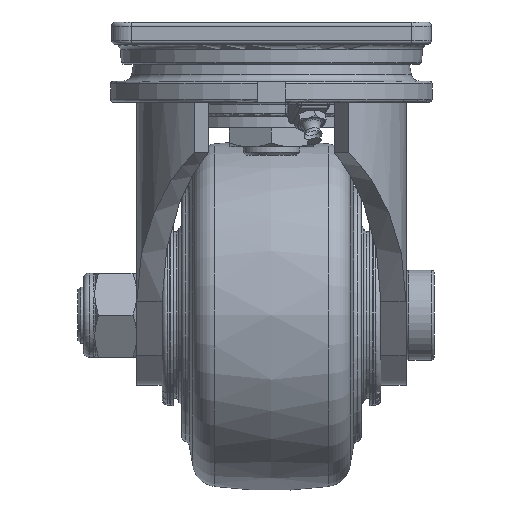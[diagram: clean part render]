
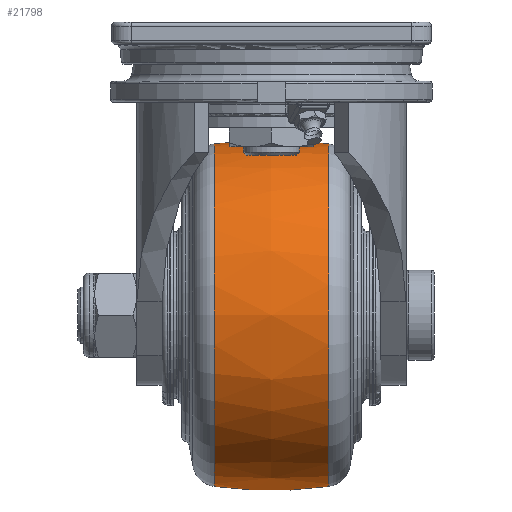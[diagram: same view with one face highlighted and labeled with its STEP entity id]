
A CAD part, left-side view. The second image highlights one B-rep face of the part: STEP entity #21798.
In plain terms, the highlighted free-form (B-spline) face has degree [2, 2] with [3, 9] control points.
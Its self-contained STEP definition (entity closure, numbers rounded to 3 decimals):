
#88=(
BOUNDED_SURFACE()
B_SPLINE_SURFACE(2,2,((#30677,#30678,#30679,#30680,#30681,#30682,#30683,
#30684,#30685),(#30686,#30687,#30688,#30689,#30690,#30691,#30692,#30693,
#30694),(#30695,#30696,#30697,#30698,#30699,#30700,#30701,#30702,#30703)),
 .UNSPECIFIED.,.F.,.T.,.F.)
B_SPLINE_SURFACE_WITH_KNOTS((3,3),(3,2,2,2,3),(-0.136,0.136),
(-3.142,-1.571,0.,1.571,3.142),
 .UNSPECIFIED.)
GEOMETRIC_REPRESENTATION_ITEM()
RATIONAL_B_SPLINE_SURFACE(((1.,0.707,1.,0.707,1.,
0.707,1.,0.707,1.),(0.991,0.701,
0.991,0.701,0.991,0.701,
0.991,0.701,0.991),(1.,0.707,
1.,0.707,1.,0.707,1.,0.707,1.)))
REPRESENTATION_ITEM('')
SURFACE()
);
#5610=FACE_OUTER_BOUND('',#6894,.T.);
#6894=EDGE_LOOP('',(#15235,#15236,#15237,#15238,#15239,#15240));
#8359=CIRCLE('',#23279,61.106);
#8360=CIRCLE('',#23280,61.106);
#8361=CIRCLE('',#23281,150.);
#8362=CIRCLE('',#23282,61.106);
#8363=CIRCLE('',#23283,61.106);
#9273=VERTEX_POINT('',#30672);
#9274=VERTEX_POINT('',#30674);
#9275=VERTEX_POINT('',#30704);
#9276=VERTEX_POINT('',#30706);
#11573=EDGE_CURVE('',#9273,#9274,#8359,.T.);
#11574=EDGE_CURVE('',#9274,#9273,#8360,.T.);
#11575=EDGE_CURVE('',#9273,#9275,#8361,.T.);
#11576=EDGE_CURVE('',#9275,#9276,#8362,.T.);
#11577=EDGE_CURVE('',#9276,#9275,#8363,.T.);
#15235=ORIENTED_EDGE('',*,*,#11574,.F.);
#15236=ORIENTED_EDGE('',*,*,#11573,.F.);
#15237=ORIENTED_EDGE('',*,*,#11575,.T.);
#15238=ORIENTED_EDGE('',*,*,#11576,.T.);
#15239=ORIENTED_EDGE('',*,*,#11577,.T.);
#15240=ORIENTED_EDGE('',*,*,#11575,.F.);
#21798=ADVANCED_FACE('',(#5610),#88,.F.);
#23279=AXIS2_PLACEMENT_3D('',#30675,#25383,#25384);
#23280=AXIS2_PLACEMENT_3D('',#30676,#25385,#25386);
#23281=AXIS2_PLACEMENT_3D('',#30705,#25387,#25388);
#23282=AXIS2_PLACEMENT_3D('',#30707,#25389,#25390);
#23283=AXIS2_PLACEMENT_3D('',#30708,#25391,#25392);
#25383=DIRECTION('center_axis',(0.,-1.,0.));
#25384=DIRECTION('ref_axis',(-1.,0.,0.));
#25385=DIRECTION('center_axis',(0.,-1.,0.));
#25386=DIRECTION('ref_axis',(-1.,0.,0.));
#25387=DIRECTION('center_axis',(1.,0.,0.));
#25388=DIRECTION('ref_axis',(0.,0.,
-1.));
#25389=DIRECTION('center_axis',(0.,-1.,0.));
#25390=DIRECTION('ref_axis',(-1.,0.,0.));
#25391=DIRECTION('center_axis',(0.,-1.,0.));
#25392=DIRECTION('ref_axis',(-1.,0.,0.));
#30672=CARTESIAN_POINT('',(44.195,-20.406,-135.606));
#30674=CARTESIAN_POINT('',(-16.91,-20.406,-74.5));
#30675=CARTESIAN_POINT('Origin',(44.195,-20.406,-74.5));
#30676=CARTESIAN_POINT('Origin',(44.195,-20.406,-74.5));
#30677=CARTESIAN_POINT('Ctrl Pts',(44.195,-20.406,-135.606));
#30678=CARTESIAN_POINT('Ctrl Pts',(-16.91,-20.406,-135.606));
#30679=CARTESIAN_POINT('Ctrl Pts',(-16.91,-20.406,-74.5));
#30680=CARTESIAN_POINT('Ctrl Pts',(-16.91,-20.406,-13.394));
#30681=CARTESIAN_POINT('Ctrl Pts',(44.195,-20.406,-13.394));
#30682=CARTESIAN_POINT('Ctrl Pts',(105.301,-20.406,-13.394));
#30683=CARTESIAN_POINT('Ctrl Pts',(105.301,-20.406,-74.5));
#30684=CARTESIAN_POINT('Ctrl Pts',(105.301,-20.406,-135.606));
#30685=CARTESIAN_POINT('Ctrl Pts',(44.195,-20.406,-135.606));
#30686=CARTESIAN_POINT('Ctrl Pts',(44.195,0.,
-138.408));
#30687=CARTESIAN_POINT('Ctrl Pts',(-19.712,0.,
-138.408));
#30688=CARTESIAN_POINT('Ctrl Pts',(-19.712,0.,
-74.5));
#30689=CARTESIAN_POINT('Ctrl Pts',(-19.712,0.,
-10.592));
#30690=CARTESIAN_POINT('Ctrl Pts',(44.195,0.,
-10.592));
#30691=CARTESIAN_POINT('Ctrl Pts',(108.103,0.,
-10.592));
#30692=CARTESIAN_POINT('Ctrl Pts',(108.103,0.,
-74.5));
#30693=CARTESIAN_POINT('Ctrl Pts',(108.103,0.,
-138.408));
#30694=CARTESIAN_POINT('Ctrl Pts',(44.195,0.,
-138.408));
#30695=CARTESIAN_POINT('Ctrl Pts',(44.195,20.406,-135.606));
#30696=CARTESIAN_POINT('Ctrl Pts',(-16.91,20.406,-135.606));
#30697=CARTESIAN_POINT('Ctrl Pts',(-16.91,20.406,-74.5));
#30698=CARTESIAN_POINT('Ctrl Pts',(-16.91,20.406,-13.394));
#30699=CARTESIAN_POINT('Ctrl Pts',(44.195,20.406,-13.394));
#30700=CARTESIAN_POINT('Ctrl Pts',(105.301,20.406,-13.394));
#30701=CARTESIAN_POINT('Ctrl Pts',(105.301,20.406,-74.5));
#30702=CARTESIAN_POINT('Ctrl Pts',(105.301,20.406,-135.606));
#30703=CARTESIAN_POINT('Ctrl Pts',(44.195,20.406,-135.606));
#30704=CARTESIAN_POINT('',(44.195,20.406,-135.606));
#30705=CARTESIAN_POINT('Origin',(44.195,0.,
13.));
#30706=CARTESIAN_POINT('',(-16.91,20.406,-74.5));
#30707=CARTESIAN_POINT('Origin',(44.195,20.406,-74.5));
#30708=CARTESIAN_POINT('Origin',(44.195,20.406,-74.5));
